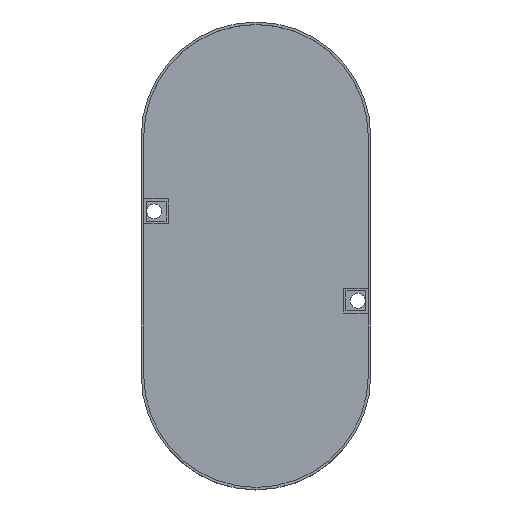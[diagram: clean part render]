
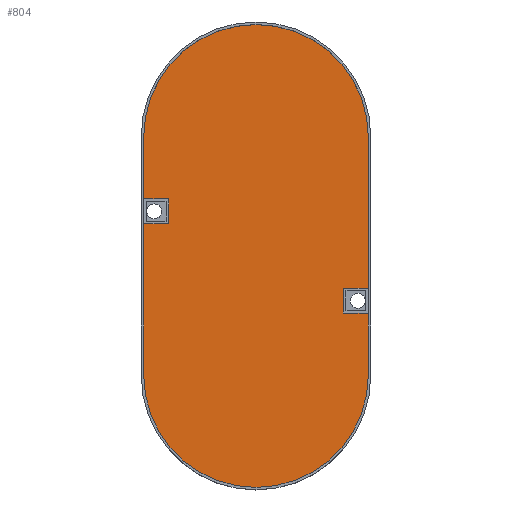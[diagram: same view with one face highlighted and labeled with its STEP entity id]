
A CAD part, top view. The second image highlights one B-rep face of the part: STEP entity #804.
In plain terms, the highlighted planar face has unit normal (0, 0, 1).
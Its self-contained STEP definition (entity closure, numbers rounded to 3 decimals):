
#66 = PLANE ( 'NONE',  #678 ) ;
#67 = CARTESIAN_POINT ( 'NONE',  ( 0., 0., 1. ) ) ;
#68 = DIRECTION ( 'NONE',  ( 0., 0., 1. ) ) ;
#69 = DIRECTION ( 'NONE',  ( 1., 0., 0. ) ) ;
#162 = EDGE_LOOP ( 'NONE', ( #233, #231, #232, #230, #229, #228, #227, #226, #225, #224, #223, #215 ) ) ;
#215 = ORIENTED_EDGE ( 'NONE', *, *, #720, .T. ) ;
#223 = ORIENTED_EDGE ( 'NONE', *, *, #721, .T. ) ;
#224 = ORIENTED_EDGE ( 'NONE', *, *, #726, .F. ) ;
#225 = ORIENTED_EDGE ( 'NONE', *, *, #713, .F. ) ;
#226 = ORIENTED_EDGE ( 'NONE', *, *, #740, .F. ) ;
#227 = ORIENTED_EDGE ( 'NONE', *, *, #739, .T. ) ;
#228 = ORIENTED_EDGE ( 'NONE', *, *, #738, .T. ) ;
#229 = ORIENTED_EDGE ( 'NONE', *, *, #737, .T. ) ;
#230 = ORIENTED_EDGE ( 'NONE', *, *, #736, .F. ) ;
#231 = ORIENTED_EDGE ( 'NONE', *, *, #734, .F. ) ;
#232 = ORIENTED_EDGE ( 'NONE', *, *, #735, .F. ) ;
#233 = ORIENTED_EDGE ( 'NONE', *, *, #733, .T. ) ;
#337 = VERTEX_POINT ( 'NONE', #1075 ) ;
#338 = VERTEX_POINT ( 'NONE', #1076 ) ;
#339 = VERTEX_POINT ( 'NONE', #1078 ) ;
#345 = VERTEX_POINT ( 'NONE', #1082 ) ;
#346 = VERTEX_POINT ( 'NONE', #1080 ) ;
#347 = VERTEX_POINT ( 'NONE', #819 ) ;
#348 = VERTEX_POINT ( 'NONE', #821 ) ;
#349 = VERTEX_POINT ( 'NONE', #820 ) ;
#350 = VERTEX_POINT ( 'NONE', #822 ) ;
#351 = VERTEX_POINT ( 'NONE', #823 ) ;
#352 = VERTEX_POINT ( 'NONE', #824 ) ;
#353 = VERTEX_POINT ( 'NONE', #825 ) ;
#407 = LINE ( 'NONE', #901, #602 ) ;
#414 = LINE ( 'NONE', #918, #658 ) ;
#419 = LINE ( 'NONE', #928, #631 ) ;
#423 = LINE ( 'NONE', #945, #567 ) ;
#424 = LINE ( 'NONE', #947, #575 ) ;
#425 = LINE ( 'NONE', #949, #607 ) ;
#426 = LINE ( 'NONE', #951, #621 ) ;
#427 = LINE ( 'NONE', #953, #620 ) ;
#428 = LINE ( 'NONE', #958, #625 ) ;
#429 = LINE ( 'NONE', #960, #563 ) ;
#493 = FACE_OUTER_BOUND ( 'NONE', #162, .T. ) ;
#563 = VECTOR ( 'NONE', #961, 1000. ) ;
#567 = VECTOR ( 'NONE', #946, 1000. ) ;
#568 = CIRCLE ( 'NONE', #663, 45.25 ) ;
#575 = VECTOR ( 'NONE', #948, 1000. ) ;
#602 = VECTOR ( 'NONE', #902, 1000. ) ;
#607 = VECTOR ( 'NONE', #950, 1000. ) ;
#620 = VECTOR ( 'NONE', #954, 1000. ) ;
#621 = VECTOR ( 'NONE', #952, 1000. ) ;
#623 = AXIS2_PLACEMENT_3D ( 'NONE', #955, #956, #957 ) ;
#625 = VECTOR ( 'NONE', #959, 1000. ) ;
#631 = VECTOR ( 'NONE', #929, 1000. ) ;
#658 = VECTOR ( 'NONE', #919, 1000. ) ;
#663 = AXIS2_PLACEMENT_3D ( 'NONE', #915, #916, #917 ) ;
#678 = AXIS2_PLACEMENT_3D ( 'NONE', #67, #68, #69 ) ;
#690 = CIRCLE ( 'NONE', #623, 45.25 ) ;
#713 = EDGE_CURVE ( 'NONE', #351, #350, #407, .T. ) ;
#720 = EDGE_CURVE ( 'NONE', #353, #337, #568, .T. ) ;
#721 = EDGE_CURVE ( 'NONE', #352, #353, #414, .T. ) ;
#726 = EDGE_CURVE ( 'NONE', #352, #351, #419, .T. ) ;
#733 = EDGE_CURVE ( 'NONE', #337, #338, #423, .T. ) ;
#734 = EDGE_CURVE ( 'NONE', #339, #338, #424, .T. ) ;
#735 = EDGE_CURVE ( 'NONE', #345, #339, #425, .T. ) ;
#736 = EDGE_CURVE ( 'NONE', #346, #345, #426, .T. ) ;
#737 = EDGE_CURVE ( 'NONE', #346, #347, #427, .T. ) ;
#738 = EDGE_CURVE ( 'NONE', #347, #348, #690, .T. ) ;
#739 = EDGE_CURVE ( 'NONE', #348, #349, #428, .T. ) ;
#740 = EDGE_CURVE ( 'NONE', #350, #349, #429, .T. ) ;
#804 = ADVANCED_FACE ( 'NONE', ( #493 ), #66, .T. ) ;
#819 = CARTESIAN_POINT ( 'NONE',  ( 45.25, 0., 1. ) ) ;
#820 = CARTESIAN_POINT ( 'NONE',  ( -45.25, -25., 1. ) ) ;
#821 = CARTESIAN_POINT ( 'NONE',  ( -45.25, 0., 1. ) ) ;
#822 = CARTESIAN_POINT ( 'NONE',  ( -35.25, -25., 1. ) ) ;
#823 = CARTESIAN_POINT ( 'NONE',  ( -35.25, -35., 1. ) ) ;
#824 = CARTESIAN_POINT ( 'NONE',  ( -45.25, -35., 1. ) ) ;
#825 = CARTESIAN_POINT ( 'NONE',  ( -45.25, -96., 1. ) ) ;
#901 = CARTESIAN_POINT ( 'NONE',  ( -35.25, -35., 1. ) ) ;
#902 = DIRECTION ( 'NONE',  ( 0., 1., 0. ) ) ;
#915 = CARTESIAN_POINT ( 'NONE',  ( 0., -96., 1. ) ) ;
#916 = DIRECTION ( 'NONE',  ( 0., 0., 1. ) ) ;
#917 = DIRECTION ( 'NONE',  ( 1., 0., 0. ) ) ;
#918 = CARTESIAN_POINT ( 'NONE',  ( -45.25, 0., 1. ) ) ;
#919 = DIRECTION ( 'NONE',  ( 0., -1., 0. ) ) ;
#928 = CARTESIAN_POINT ( 'NONE',  ( -45.25, -35., 1. ) ) ;
#929 = DIRECTION ( 'NONE',  ( 1., 0., 0. ) ) ;
#945 = CARTESIAN_POINT ( 'NONE',  ( 45.25, -96., 1. ) ) ;
#946 = DIRECTION ( 'NONE',  ( 0., 1., 0. ) ) ;
#947 = CARTESIAN_POINT ( 'NONE',  ( 35.25, -71., 1. ) ) ;
#948 = DIRECTION ( 'NONE',  ( 1., 0., 0. ) ) ;
#949 = CARTESIAN_POINT ( 'NONE',  ( 35.25, -61., 1. ) ) ;
#950 = DIRECTION ( 'NONE',  ( 0., -1., 0. ) ) ;
#951 = CARTESIAN_POINT ( 'NONE',  ( 35.25, -61., 1. ) ) ;
#952 = DIRECTION ( 'NONE',  ( -1., 0., 0. ) ) ;
#953 = CARTESIAN_POINT ( 'NONE',  ( 45.25, -96., 1. ) ) ;
#954 = DIRECTION ( 'NONE',  ( 0., 1., 0. ) ) ;
#955 = CARTESIAN_POINT ( 'NONE',  ( 0., 0., 1. ) ) ;
#956 = DIRECTION ( 'NONE',  ( 0., 0., 1. ) ) ;
#957 = DIRECTION ( 'NONE',  ( 1., 0., 0. ) ) ;
#958 = CARTESIAN_POINT ( 'NONE',  ( -45.25, 0., 1. ) ) ;
#959 = DIRECTION ( 'NONE',  ( 0., -1., 0. ) ) ;
#960 = CARTESIAN_POINT ( 'NONE',  ( -45.25, -25., 1. ) ) ;
#961 = DIRECTION ( 'NONE',  ( -1., 0., 0. ) ) ;
#1075 = CARTESIAN_POINT ( 'NONE',  ( 45.25, -96., 1. ) ) ;
#1076 = CARTESIAN_POINT ( 'NONE',  ( 45.25, -71., 1. ) ) ;
#1078 = CARTESIAN_POINT ( 'NONE',  ( 35.25, -71., 1. ) ) ;
#1080 = CARTESIAN_POINT ( 'NONE',  ( 45.25, -61., 1. ) ) ;
#1082 = CARTESIAN_POINT ( 'NONE',  ( 35.25, -61., 1. ) ) ;
